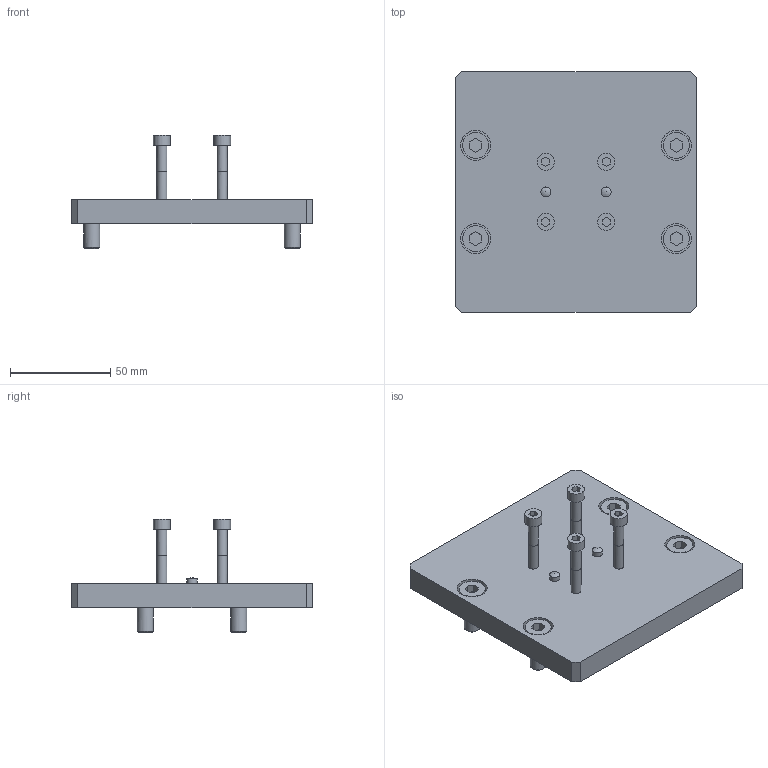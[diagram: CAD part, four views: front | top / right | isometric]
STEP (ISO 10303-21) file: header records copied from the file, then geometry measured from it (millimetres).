
FILE_DESCRIPTION( ( 'STEP AP214' ), '1' );
FILE_NAME( 'U:/Etudes/Top Solid/BIBLIO 3D AVM/STEP/N_ELECTRIQUE/Linéaires/Add2009/8319122.step', '2009-03-03T14:13:26', ( ' ' ), ( ' ' ), 'XStep 1.0', ' ', ' ' );
FILE_SCHEMA( ( 'automotive_design' ) );
Length unit declared in the file: millimetre
Products named in the file (1): 1
Bounding box: 120 x 120 x 56.5 mm (x, y, z)
Volume: 175631.7 mm3; surface area: 42641.5 mm2
Topology: 1 solids, 3 shells, 148 faces, 322 edges, 214 vertices
Faces by surface type: plane 96, cylinder 40, cone 10, bspline 2
Full cylindrical faces by diameter (mm): 4.134 x4, 5 x12, 8 x8, 8.5 x4, 9 x4, 13 x4, 15 x4
Entity records: 5090 total; most frequent: CARTESIAN_POINT 913, DIRECTION 610, ORIENTED_EDGE 500, EDGE_CURVE 250, EDGE_LOOP 238, AXIS2_PLACEMENT_3D 221, VERTEX_POINT 196, FACE_OUTER_BOUND 188
